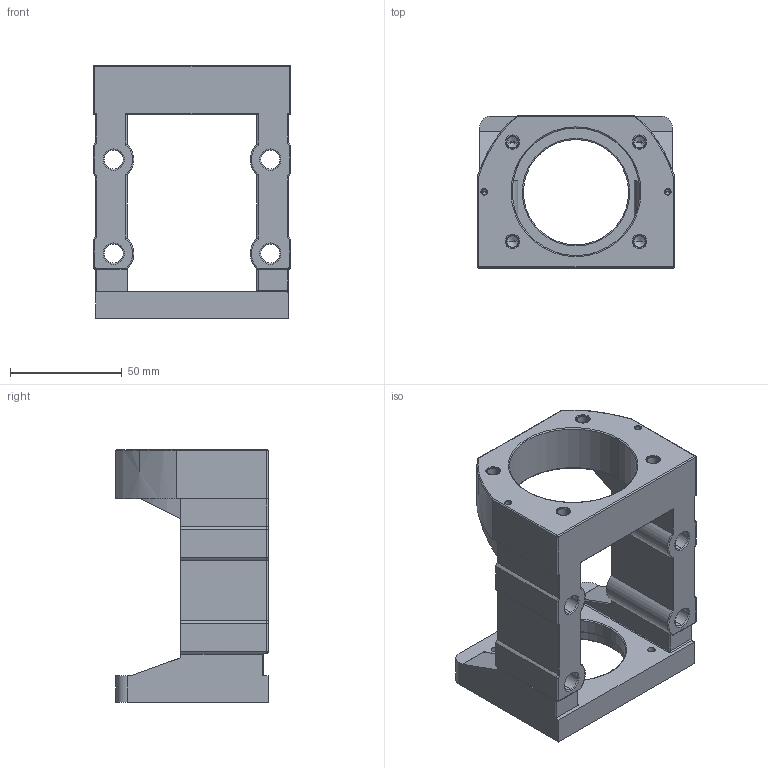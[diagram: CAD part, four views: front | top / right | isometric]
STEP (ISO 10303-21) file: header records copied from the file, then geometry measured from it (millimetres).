
FILE_DESCRIPTION (( 'STEP AP203' ), '1' );
FILE_NAME ('MBA20-DP.STEP', '2019-01-02T03:37:03', ( '' ), ( '' ), 'SwSTEP 2.0', 'SolidWorks 2018', '' );
FILE_SCHEMA (( 'CONFIG_CONTROL_DESIGN' ));
Length unit declared in the file: millimetre
Products named in the file (1): MBA20-DP
Bounding box: 88 x 68 x 113 mm (x, y, z)
Volume: 200385.3 mm3; surface area: 50751.7 mm2
Topology: 1 solids, 1 shells, 231 faces, 571 edges, 336 vertices
Faces by surface type: cylinder 102, torus 51, plane 42, cone 32, bspline 2, sphere 2
Entity records: 6984 total; most frequent: CARTESIAN_POINT 1391, DIRECTION 1240, ORIENTED_EDGE 1114, EDGE_CURVE 557, AXIS2_PLACEMENT_3D 499, VERTEX_POINT 336, CIRCLE 269, EDGE_LOOP 261
